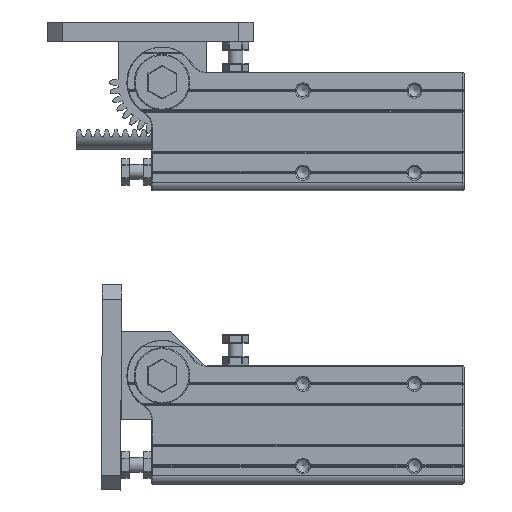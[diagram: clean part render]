
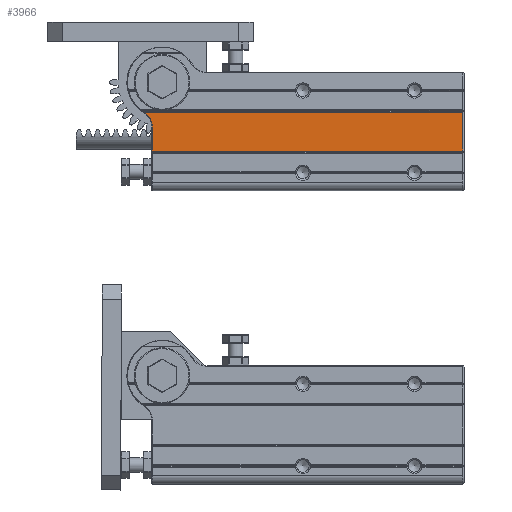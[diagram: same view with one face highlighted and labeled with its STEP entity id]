
A CAD part, left-side view. The second image highlights one B-rep face of the part: STEP entity #3966.
In plain terms, the highlighted planar face has unit normal (-1, 0, 0).
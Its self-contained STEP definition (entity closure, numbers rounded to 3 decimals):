
#2314=FACE_OUTER_BOUND('',#8772,.T.);
#3966=ADVANCED_FACE('',(#2314),#5582,.T.);
#5582=PLANE('',#33943);
#6858=CIRCLE('',#33942,6.2);
#8772=EDGE_LOOP('',(#13308,#13309,#13310,#13311,#13312));
#13308=ORIENTED_EDGE('',*,*,#24084,.T.);
#13309=ORIENTED_EDGE('',*,*,#24085,.T.);
#13310=ORIENTED_EDGE('',*,*,#24086,.T.);
#13311=ORIENTED_EDGE('',*,*,#24087,.T.);
#13312=ORIENTED_EDGE('',*,*,#24088,.T.);
#20641=VERTEX_POINT('',#49674);
#20642=VERTEX_POINT('',#49675);
#20643=VERTEX_POINT('',#49677);
#20644=VERTEX_POINT('',#49679);
#20645=VERTEX_POINT('',#49681);
#24084=EDGE_CURVE('',#20641,#20642,#27834,.T.);
#24085=EDGE_CURVE('',#20642,#20643,#27835,.T.);
#24086=EDGE_CURVE('',#20643,#20644,#27836,.T.);
#24087=EDGE_CURVE('',#20644,#20645,#6858,.T.);
#24088=EDGE_CURVE('',#20645,#20641,#27837,.T.);
#27834=LINE('',#49673,#30692);
#27835=LINE('',#49676,#30693);
#27836=LINE('',#49678,#30694);
#27837=LINE('',#49682,#30695);
#30692=VECTOR('',#39245,1.);
#30693=VECTOR('',#39246,1.);
#30694=VECTOR('',#39247,1.);
#30695=VECTOR('',#39250,1.);
#33942=AXIS2_PLACEMENT_3D('',#49680,#39248,#39249);
#33943=AXIS2_PLACEMENT_3D('',#49683,#39251,#39252);
#39245=DIRECTION('',(0.,-1.,0.));
#39246=DIRECTION('',(0.,0.,1.));
#39247=DIRECTION('',(0.,1.,0.));
#39248=DIRECTION('',(1.,0.,0.));
#39249=DIRECTION('',(0.,0.,1.));
#39250=DIRECTION('',(0.,0.,-1.));
#39251=DIRECTION('',(-1.,0.,0.));
#39252=DIRECTION('',(0.,0.,1.));
#49673=CARTESIAN_POINT('',(-26.,11.14,94.905));
#49674=CARTESIAN_POINT('',(-26.,143.562,94.905));
#49675=CARTESIAN_POINT('',(-26.,37.762,94.905));
#49676=CARTESIAN_POINT('',(-26.,37.762,108.158));
#49677=CARTESIAN_POINT('',(-26.,37.762,108.158));
#49678=CARTESIAN_POINT('',(-26.,146.819,108.158));
#49679=CARTESIAN_POINT('',(-26.,146.258,108.158));
#49680=CARTESIAN_POINT('',(-26.,149.762,103.043));
#49681=CARTESIAN_POINT('',(-26.,143.562,103.043));
#49682=CARTESIAN_POINT('',(-26.,143.562,94.905));
#49683=CARTESIAN_POINT('',(-26.,149.762,103.043));
